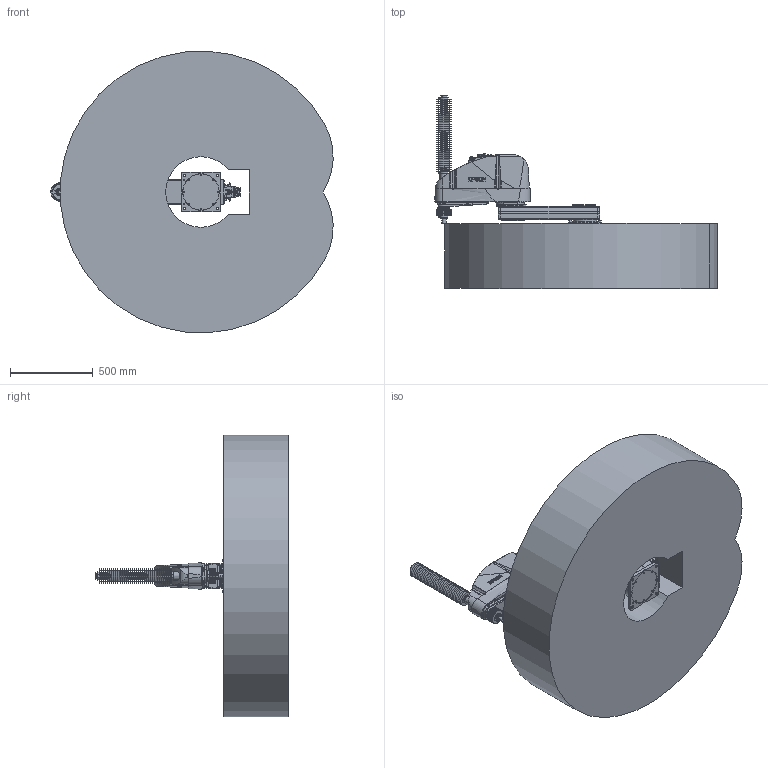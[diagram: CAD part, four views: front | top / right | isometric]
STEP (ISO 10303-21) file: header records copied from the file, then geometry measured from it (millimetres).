
FILE_DESCRIPTION( ( 'STEP AP214' ), '1' );
FILE_NAME( 'C:/Users/9607552/Desktop/GX20-B854C_langle.stp', '2023-08-01T09:29:24', ( '' ), ( '' ), ' ', 'PARTsolutions', ' ' );
FILE_SCHEMA( ( 'AUTOMOTIVE_DESIGN { 1 0 10303 214 1 1 1 1 }' ) );
Length unit declared in the file: millimetre
Products named in the file (7): GX20-B854CA-W; _Base c; _Angle-B; _J1 Arm GX10-450; _J2 Arm GX10-c; _J3 Arm GX10-c (4); _GX10_20B-23_4
Assembly tree (6 placements, depth 2):
  GX20-B854CA-W
    _Base c
    _Angle-B
    _J1 Arm GX10-450
    _J2 Arm GX10-c
    _J3 Arm GX10-c (4)
    _GX10_20B-23_4
Bounding box: 1702.55 x 1164 x 1697.41 mm (x, y, z)
Volume: 850746928.3 mm3; surface area: 8941220.7 mm2
Topology: 6 solids, 6 shells, 2517 faces, 6157 edges, 3981 vertices
Faces by surface type: plane 1284, cylinder 732, cone 396, torus 67, bspline 37, sphere 1
Full cylindrical faces by diameter (mm): 1.18 x55, 2.5 x2, 3 x32, 3.242 x10, 3.3 x9, 4 x2, 4.2 x2, 4.8 x4, 5.1 x4, 5.34 x4, 5.5 x12, 6 x3, 6.2 x2, 6.647 x2, 7 x27, 7.5 x1, 8 x4, 8.5 x2, 9 x4, 10 x32, 10.5 x3, 11 x14, 12 x7, 12.25 x1, 13 x2, 14 x8, 14.25 x1, 16 x7, 18 x1, 20.4 x1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
Entity records: 94452 total; most frequent: CARTESIAN_POINT 17572, DIRECTION 11805, ORIENTED_EDGE 10720, EDGE_CURVE 5360, AXIS2_PLACEMENT_3D 4510, VERTEX_POINT 3882, EDGE_LOOP 3573, FACE_OUTER_BOUND 2864
